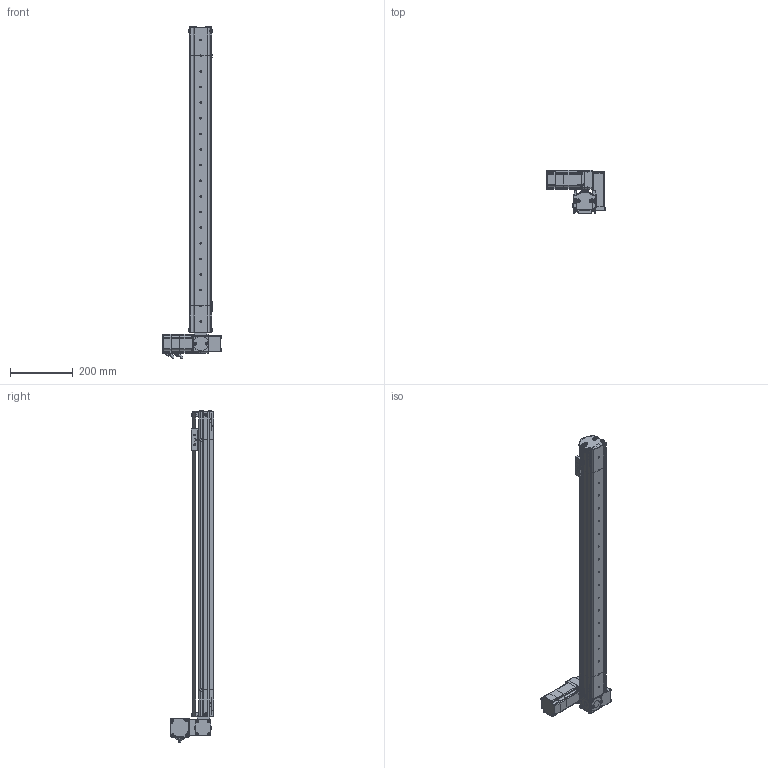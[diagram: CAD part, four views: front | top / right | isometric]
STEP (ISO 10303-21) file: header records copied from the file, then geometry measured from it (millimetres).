
FILE_DESCRIPTION (( 'STEP AP214' ), '1' );
FILE_NAME ('S07 TBN LT S800.STEP', '2010-06-29T11:40:46', ( 'Conseil Régional Haute-Normandie' ), ( 'Conseil Régional Haute-Normandie' ), 'SwSTEP 2.0', 'SolidWorks 2010', '' );
FILE_SCHEMA (( 'AUTOMOTIVE_DESIGN' ));
Length unit declared in the file: millimetre
Products named in the file (41): vis M5 L16_Default; S07 LT(146)_Default; corp moteur TB(146)_Default; plaque de bout LT_Default; Corp S07 course 800_Default; vis M5 L12_Default; GMB 60 90 310_Default; CHariot_Default; P1_Default; S07 TBN LT S800; P2 90A_Default; P3 90A_Default; couroie tail_Default; Chariot; guide; Poulie_Default; T皻e de poulie_Default; couvercle tail TB; Vis M5 L16-2_Default; Cvis M5 L30_Default; VisM3_Default; plaque de bout_Default; corp tail TB_Default; S07 TB tail (78)_Default; Conecteur2 60BLDC_Default; Conecteur 60BLDC_Default; Axe 60BLDC_Default; P4_Default; couvercle moteur S07 TB; Couroie t皻e_Default; Couroie  course 800_Default; couvercle S07 course 800 ; Pièce5^S07 LT(146); cache t皻e axe_Default; Poulie head_Default; cache t皻e_Default; Course C L800_Default; vis M5 L5_Default; Plaque racord_Default; renvoi LT_Default
Assembly tree (80 placements, depth 4):
  S07 TBN LT S800
    CHariot_Default
      Chariot
      guide
      vis M5 L16_Default  x2
    S07 LT(146)_Default
      plaque de bout LT_Default
      Poulie head_Default
      vis M5 L12_Default  x6
      Vis M5 L16-2_Default  x8
      Couroie t皻e_Default
      Plaque racord_Default
      vis M5 L5_Default  x6
      renvoi LT_Default
      cache t皻e_Default  x2
      couvercle moteur S07 TB
      cache t皻e axe_Default
      Cvis M5 L30_Default  x2
      GMB 60 90 310_Default
        VisM3_Default  x12
        P1_Default
        P2 90A_Default
        Conecteur 60BLDC_Default
        P3 90A_Default
        P4_Default
        Axe 60BLDC_Default
        Conecteur2 60BLDC_Default
      corp moteur TB(146)_Default
    Course C L800_Default
      Corp S07 course 800_Default
      couvercle S07 course 800 
      Couroie  course 800_Default
    S07 TB tail (78)_Default
      vis M5 L12_Default  x10
      couroie tail_Default
      corp tail TB_Default
      plaque de bout_Default
      Poulie_Default
        Poulie_Default
        T皻e de poulie_Default
      couvercle tail TB
  Pièce5^S07 LT(146)
Bounding box: 190.2 x 139.5 x 1062 mm (x, y, z)
Volume: 2346101.9 mm3; surface area: 982302.8 mm2
Topology: 102 solids, 102 shells, 3922 faces, 9768 edges, 6309 vertices
Faces by surface type: plane 2230, cylinder 762, bspline 677, cone 125, torus 124, sphere 4
Entity records: 167189 total; most frequent: CARTESIAN_POINT 75193, ORIENTED_EDGE 15448, DIRECTION 12291, EDGE_CURVE 7724, VERTEX_POINT 5097, VECTOR 5045, LINE 5045, AXIS2_PLACEMENT_3D 3623
